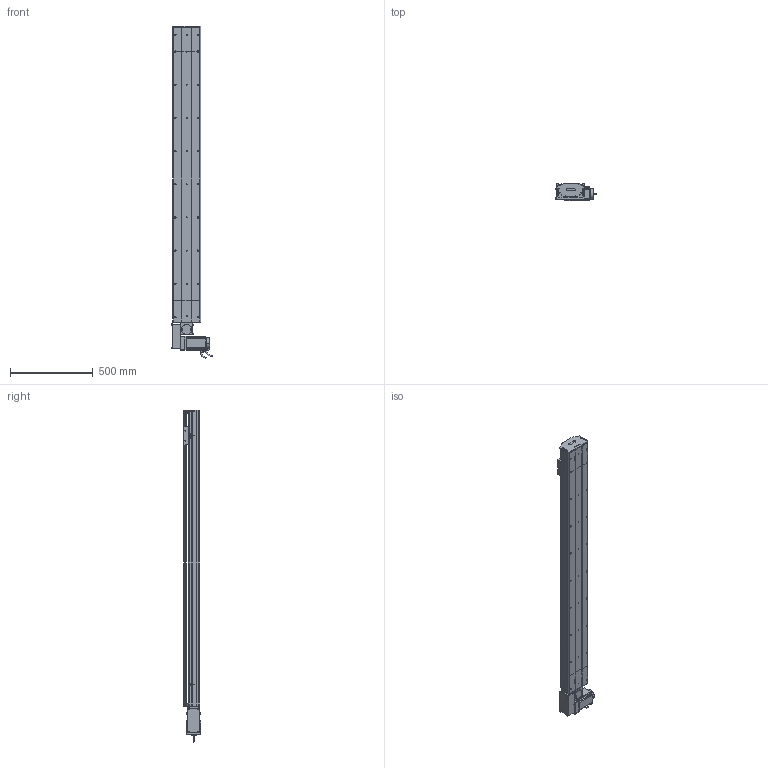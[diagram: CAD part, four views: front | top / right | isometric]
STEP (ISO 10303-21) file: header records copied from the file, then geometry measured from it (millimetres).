
FILE_DESCRIPTION (( 'STEP AP214' ), '1' );
FILE_NAME ('D17 TBN RH S1500.STEP', '2010-06-30T10:58:22', ( 'Christophe Gaillard' ), ( 'SGA' ), 'SwSTEP 2.0', 'SolidWorks 2010', '' );
FILE_SCHEMA (( 'AUTOMOTIVE_DESIGN' ));
Length unit declared in the file: millimetre
Products named in the file (40): guide D17; Plaque racord D17_Default; couroie head D17_Default; Head RH D17B_Default; corpl head D17 _Default; Arbre+rail head D17B; Chariot D17 TBN; couvercle D17B head_Default; plaque de  bout head D17B RH_Default; course 1500 D17B_Default; Couroie+ rail D17 Course 1500 ; corps 90BLDC125A-640; vis M5 L8 90°_Default; Vis M5 L16-2_Default; vis M5 L16_Default; cache arbre D17_Default; Renvoi RH_Default; D17 TBN RH S1500; avant 90BLDC125A-640; corp tail D17B+100_Default; Tail D17B+100_Default; tete d''axe poulie D17B; Rail D17B; poulie tail_Default; plaque de  bout tail D17B_Default; Couroie tail D17B_Default; couvercle D17B_Default; couvercle D17B course L1500_Default; corp D17B 1500_Default; vis M5 L5_Default; cache D17_Default; Moteur motionking 90BLDC125A-640; codeur 90BLDC125-640; chariot D17 TBN; Conecteur2_Default; Conecteur_Default; vis M5 L12_Default; vis M5 L70_Default; vis M5 L25_Default; poulie head_Default
Assembly tree (66 placements, depth 4):
  D17 TBN RH S1500
    Head RH D17B_Default
      vis M5 L25_Default  x2
      Vis M5 L16-2_Default  x4
      couvercle D17B head_Default
      vis M5 L12_Default  x8
      couroie head D17_Default
      cache arbre D17_Default
      corpl head D17 _Default
      Renvoi RH_Default
      poulie head_Default
      vis M5 L5_Default  x4
      vis M5 L70_Default  x4
      Plaque racord D17_Default
      cache D17_Default  x2
      plaque de  bout head D17B RH_Default
      Moteur motionking 90BLDC125A-640
        avant 90BLDC125A-640
        codeur 90BLDC125-640
        Conecteur_Default
        corps 90BLDC125A-640
        Conecteur2_Default
      vis M5 L16_Default  x2
      Arbre+rail head D17B
    Tail D17B+100_Default
      vis M5 L12_Default  x4
      corp tail D17B+100_Default
      poulie tail_Default
      vis M5 L8 90°_Default  x2
      plaque de  bout tail D17B_Default
      vis M5 L25_Default  x2
      Rail D17B
      tete d''axe poulie D17B
      Couroie tail D17B_Default
      couvercle D17B_Default
    chariot D17 TBN
      guide D17  x2
      Chariot D17 TBN
    course 1500 D17B_Default
      Couroie+ rail D17 Course 1500 
      couvercle D17B course L1500_Default
      corp D17B 1500_Default
Bounding box: 245.2 x 105.65 x 2000.95 mm (x, y, z)
Volume: 11557307.2 mm3; surface area: 3293873.7 mm2
Topology: 89 solids, 89 shells, 2571 faces, 6535 edges, 4214 vertices
Faces by surface type: plane 1537, cylinder 737, bspline 136, cone 80, torus 77, sphere 4
Entity records: 83085 total; most frequent: CARTESIAN_POINT 24821, ORIENTED_EDGE 10242, DIRECTION 9678, EDGE_CURVE 5121, LINE 3428, VECTOR 3428, VERTEX_POINT 3358, AXIS2_PLACEMENT_3D 3125
